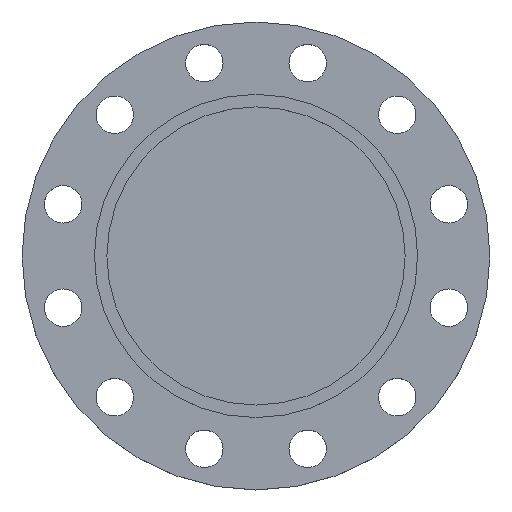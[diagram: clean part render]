
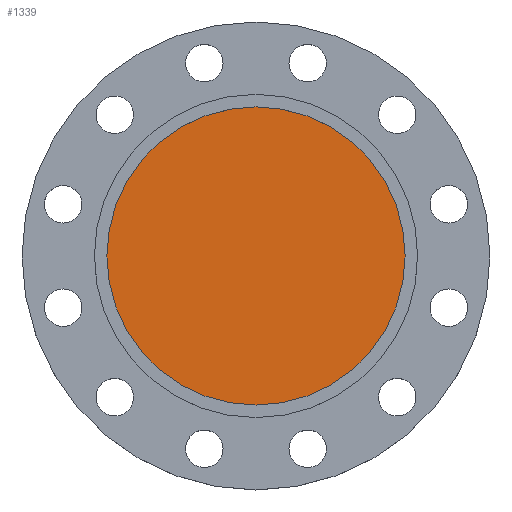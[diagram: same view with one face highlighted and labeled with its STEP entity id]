
A CAD part, top view. The second image highlights one B-rep face of the part: STEP entity #1339.
In plain terms, the highlighted planar face has unit normal (0, 0, 1).
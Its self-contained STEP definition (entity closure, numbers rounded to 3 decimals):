
#136 = DIRECTION ( 'NONE',  ( 1., 0., 0. ) ) ;
#137 = DIRECTION ( 'NONE',  ( 0., 0., 1. ) ) ;
#138 = CARTESIAN_POINT ( 'NONE',  ( 119.5, 0., -5. ) ) ;
#140 = PLANE ( 'NONE',  #221 ) ;
#141 = FACE_OUTER_BOUND ( 'NONE', #1406, .T. ) ;
#217 = CIRCLE ( 'NONE', #219, 119.5 ) ;
#219 = AXIS2_PLACEMENT_3D ( 'NONE', #732, #730, #728 ) ;
#221 = AXIS2_PLACEMENT_3D ( 'NONE', #138, #137, #136 ) ;
#229 = CARTESIAN_POINT ( 'NONE',  ( 119.5, 0., -5. ) ) ;
#441 = AXIS2_PLACEMENT_3D ( 'NONE', #452, #451, #450 ) ;
#444 = CIRCLE ( 'NONE', #441, 119.5 ) ;
#450 = DIRECTION ( 'NONE',  ( -1., 0., 0. ) ) ;
#451 = DIRECTION ( 'NONE',  ( 0., 0., -1. ) ) ;
#452 = CARTESIAN_POINT ( 'NONE',  ( 0., 0., -5. ) ) ;
#512 = CARTESIAN_POINT ( 'NONE',  ( -119.5, 0., -5. ) ) ;
#682 = EDGE_CURVE ( 'NONE', #1287, #1042, #217, .T. ) ;
#728 = DIRECTION ( 'NONE',  ( -1., 0., 0. ) ) ;
#730 = DIRECTION ( 'NONE',  ( 0., 0., -1. ) ) ;
#732 = CARTESIAN_POINT ( 'NONE',  ( 0., 0., -5. ) ) ;
#1042 = VERTEX_POINT ( 'NONE', #512 ) ;
#1107 = EDGE_CURVE ( 'NONE', #1042, #1287, #444, .T. ) ;
#1135 = ORIENTED_EDGE ( 'NONE', *, *, #1107, .F. ) ;
#1136 = ORIENTED_EDGE ( 'NONE', *, *, #682, .F. ) ;
#1287 = VERTEX_POINT ( 'NONE', #229 ) ;
#1339 = ADVANCED_FACE ( 'NONE', ( #141 ), #140, .T. ) ;
#1406 = EDGE_LOOP ( 'NONE', ( #1135, #1136 ) ) ;
